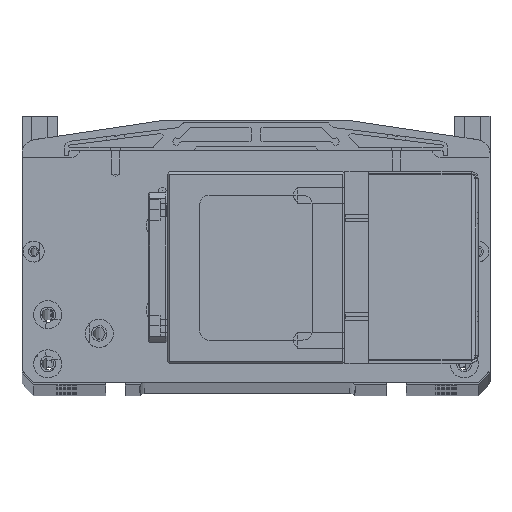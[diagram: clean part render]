
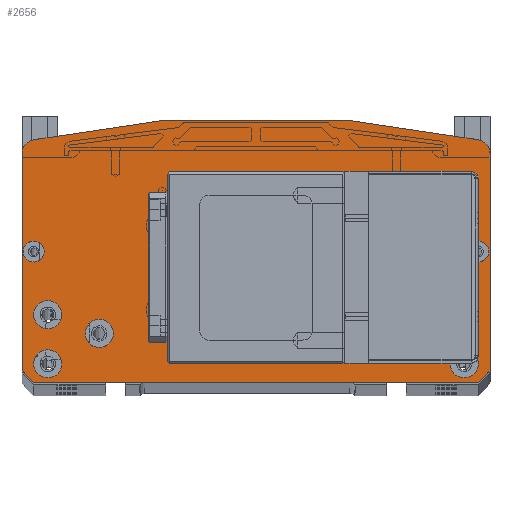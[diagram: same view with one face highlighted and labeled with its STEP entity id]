
A CAD part, top view. The second image highlights one B-rep face of the part: STEP entity #2656.
In plain terms, the highlighted planar face has unit normal (0, 0, 1).
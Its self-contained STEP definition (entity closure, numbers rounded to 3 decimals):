
#612=FACE_BOUND('',#5293,.T.);
#613=FACE_BOUND('',#5294,.T.);
#614=FACE_BOUND('',#5295,.T.);
#615=FACE_BOUND('',#5296,.T.);
#616=FACE_BOUND('',#5297,.T.);
#617=FACE_BOUND('',#5298,.T.);
#618=FACE_BOUND('',#5299,.T.);
#619=FACE_BOUND('',#5300,.T.);
#620=FACE_BOUND('',#5301,.T.);
#621=FACE_BOUND('',#5302,.T.);
#622=FACE_BOUND('',#5303,.T.);
#623=FACE_BOUND('',#5304,.T.);
#624=FACE_BOUND('',#5305,.T.);
#2656=ADVANCED_FACE('',(#612,#613,#614,#615,#616,#617,#618,#619,#620,#621,
#622,#623,#624),#3355,.F.);
#3355=PLANE('',#22084);
#5293=EDGE_LOOP('',(#10620,#10621,#10622,#10623));
#5294=EDGE_LOOP('',(#10624,#10625,#10626,#10627));
#5295=EDGE_LOOP('',(#10628));
#5296=EDGE_LOOP('',(#10629));
#5297=EDGE_LOOP('',(#10630,#10631,#10632,#10633,#10634,#10635,#10636,#10637,
#10638,#10639));
#5298=EDGE_LOOP('',(#10640));
#5299=EDGE_LOOP('',(#10641));
#5300=EDGE_LOOP('',(#10642));
#5301=EDGE_LOOP('',(#10643));
#5302=EDGE_LOOP('',(#10644));
#5303=EDGE_LOOP('',(#10645));
#5304=EDGE_LOOP('',(#10646));
#5305=EDGE_LOOP('',(#10647));
#6532=CIRCLE('',#21966,1.65);
#6547=CIRCLE('',#21995,1.65);
#6552=CIRCLE('',#22009,6.);
#6559=CIRCLE('',#22023,6.);
#6560=CIRCLE('',#22026,4.5);
#6564=CIRCLE('',#22033,4.5);
#6568=CIRCLE('',#22040,6.);
#6572=CIRCLE('',#22047,6.);
#6576=CIRCLE('',#22054,6.);
#6580=CIRCLE('',#22061,6.);
#6584=CIRCLE('',#22068,6.);
#6588=CIRCLE('',#22075,6.);
#10620=ORIENTED_EDGE('',*,*,#16907,.F.);
#10621=ORIENTED_EDGE('',*,*,#16908,.F.);
#10622=ORIENTED_EDGE('',*,*,#16909,.T.);
#10623=ORIENTED_EDGE('',*,*,#16910,.T.);
#10624=ORIENTED_EDGE('',*,*,#16750,.T.);
#10625=ORIENTED_EDGE('',*,*,#16753,.T.);
#10626=ORIENTED_EDGE('',*,*,#16773,.T.);
#10627=ORIENTED_EDGE('',*,*,#16746,.T.);
#10628=ORIENTED_EDGE('',*,*,#16808,.T.);
#10629=ORIENTED_EDGE('',*,*,#16836,.T.);
#10630=ORIENTED_EDGE('',*,*,#16841,.F.);
#10631=ORIENTED_EDGE('',*,*,#15683,.T.);
#10632=ORIENTED_EDGE('',*,*,#16873,.F.);
#10633=ORIENTED_EDGE('',*,*,#15707,.T.);
#10634=ORIENTED_EDGE('',*,*,#16872,.F.);
#10635=ORIENTED_EDGE('',*,*,#16843,.F.);
#10636=ORIENTED_EDGE('',*,*,#16849,.T.);
#10637=ORIENTED_EDGE('',*,*,#16852,.F.);
#10638=ORIENTED_EDGE('',*,*,#16853,.F.);
#10639=ORIENTED_EDGE('',*,*,#15370,.T.);
#10640=ORIENTED_EDGE('',*,*,#16903,.T.);
#10641=ORIENTED_EDGE('',*,*,#16899,.T.);
#10642=ORIENTED_EDGE('',*,*,#16895,.T.);
#10643=ORIENTED_EDGE('',*,*,#16891,.T.);
#10644=ORIENTED_EDGE('',*,*,#16887,.T.);
#10645=ORIENTED_EDGE('',*,*,#16883,.T.);
#10646=ORIENTED_EDGE('',*,*,#16879,.T.);
#10647=ORIENTED_EDGE('',*,*,#16875,.T.);
#13215=VERTEX_POINT('',#33016);
#13216=VERTEX_POINT('',#33018);
#13400=VERTEX_POINT('',#34262);
#13401=VERTEX_POINT('',#34264);
#13410=VERTEX_POINT('',#34307);
#13411=VERTEX_POINT('',#34309);
#14093=VERTEX_POINT('',#38299);
#14097=VERTEX_POINT('',#38308);
#14100=VERTEX_POINT('',#38316);
#14102=VERTEX_POINT('',#38322);
#14143=VERTEX_POINT('',#38456);
#14160=VERTEX_POINT('',#38515);
#14167=VERTEX_POINT('',#38535);
#14168=VERTEX_POINT('',#38536);
#14172=VERTEX_POINT('',#38546);
#14174=VERTEX_POINT('',#38552);
#14181=VERTEX_POINT('',#38593);
#14184=VERTEX_POINT('',#38603);
#14187=VERTEX_POINT('',#38613);
#14190=VERTEX_POINT('',#38623);
#14193=VERTEX_POINT('',#38633);
#14196=VERTEX_POINT('',#38643);
#14199=VERTEX_POINT('',#38653);
#14202=VERTEX_POINT('',#38663);
#14205=VERTEX_POINT('',#38675);
#14206=VERTEX_POINT('',#38676);
#14207=VERTEX_POINT('',#38678);
#14208=VERTEX_POINT('',#38680);
#15370=EDGE_CURVE('',#13216,#13215,#17842,.T.);
#15683=EDGE_CURVE('',#13401,#13400,#18035,.T.);
#15707=EDGE_CURVE('',#13411,#13410,#18055,.T.);
#16746=EDGE_CURVE('',#14093,#14097,#18660,.T.);
#16750=EDGE_CURVE('',#14097,#14100,#18664,.T.);
#16753=EDGE_CURVE('',#14100,#14102,#18667,.T.);
#16773=EDGE_CURVE('',#14102,#14093,#18687,.T.);
#16808=EDGE_CURVE('',#14143,#14143,#6532,.T.);
#16836=EDGE_CURVE('',#14160,#14160,#6547,.T.);
#16841=EDGE_CURVE('',#13401,#13215,#18707,.T.);
#16843=EDGE_CURVE('',#14167,#14168,#18709,.T.);
#16849=EDGE_CURVE('',#14167,#14172,#18715,.T.);
#16852=EDGE_CURVE('',#14174,#14172,#18718,.T.);
#16853=EDGE_CURVE('',#13216,#14174,#6552,.T.);
#16872=EDGE_CURVE('',#14168,#13410,#6559,.T.);
#16873=EDGE_CURVE('',#13411,#13400,#18731,.T.);
#16875=EDGE_CURVE('',#14181,#14181,#6560,.T.);
#16879=EDGE_CURVE('',#14184,#14184,#6564,.T.);
#16883=EDGE_CURVE('',#14187,#14187,#6568,.T.);
#16887=EDGE_CURVE('',#14190,#14190,#6572,.T.);
#16891=EDGE_CURVE('',#14193,#14193,#6576,.T.);
#16895=EDGE_CURVE('',#14196,#14196,#6580,.T.);
#16899=EDGE_CURVE('',#14199,#14199,#6584,.T.);
#16903=EDGE_CURVE('',#14202,#14202,#6588,.T.);
#16907=EDGE_CURVE('',#14205,#14206,#18733,.T.);
#16908=EDGE_CURVE('',#14207,#14205,#18734,.T.);
#16909=EDGE_CURVE('',#14207,#14208,#18735,.T.);
#16910=EDGE_CURVE('',#14208,#14206,#18736,.T.);
#17842=LINE('',#33017,#19388);
#18035=LINE('',#34263,#19581);
#18055=LINE('',#34308,#19601);
#18660=LINE('',#38309,#20206);
#18664=LINE('',#38317,#20210);
#18667=LINE('',#38323,#20213);
#18687=LINE('',#38359,#20233);
#18707=LINE('',#38531,#20253);
#18709=LINE('',#38534,#20255);
#18715=LINE('',#38547,#20261);
#18718=LINE('',#38553,#20264);
#18731=LINE('',#38589,#20277);
#18733=LINE('',#38674,#20279);
#18734=LINE('',#38677,#20280);
#18735=LINE('',#38679,#20281);
#18736=LINE('',#38681,#20282);
#19388=VECTOR('',#23809,1.);
#19581=VECTOR('',#24302,1.);
#19601=VECTOR('',#24352,1.);
#20206=VECTOR('',#26405,1.);
#20210=VECTOR('',#26411,1.);
#20213=VECTOR('',#26416,1.);
#20233=VECTOR('',#26448,1.);
#20253=VECTOR('',#26664,1.);
#20255=VECTOR('',#26668,1.);
#20261=VECTOR('',#26676,1.);
#20264=VECTOR('',#26681,1.);
#20277=VECTOR('',#26728,1.);
#20279=VECTOR('',#26848,1.);
#20280=VECTOR('',#26849,1.);
#20281=VECTOR('',#26850,1.);
#20282=VECTOR('',#26851,1.);
#21966=AXIS2_PLACEMENT_3D('',#38455,#26573,#26574);
#21995=AXIS2_PLACEMENT_3D('',#38514,#26644,#26645);
#22009=AXIS2_PLACEMENT_3D('',#38555,#26684,#26685);
#22023=AXIS2_PLACEMENT_3D('',#38587,#26724,#26725);
#22026=AXIS2_PLACEMENT_3D('',#38592,#26732,#26733);
#22033=AXIS2_PLACEMENT_3D('',#38602,#26746,#26747);
#22040=AXIS2_PLACEMENT_3D('',#38612,#26760,#26761);
#22047=AXIS2_PLACEMENT_3D('',#38622,#26774,#26775);
#22054=AXIS2_PLACEMENT_3D('',#38632,#26788,#26789);
#22061=AXIS2_PLACEMENT_3D('',#38642,#26802,#26803);
#22068=AXIS2_PLACEMENT_3D('',#38652,#26816,#26817);
#22075=AXIS2_PLACEMENT_3D('',#38662,#26830,#26831);
#22084=AXIS2_PLACEMENT_3D('',#38682,#26852,#26853);
#23809=DIRECTION('',(0.,-1.,0.));
#24302=DIRECTION('',(1.,0.,0.));
#24352=DIRECTION('',(0.,1.,0.));
#26405=DIRECTION('',(0.,1.,0.));
#26411=DIRECTION('',(1.,0.,0.));
#26416=DIRECTION('',(0.,-1.,0.));
#26448=DIRECTION('',(-1.,0.,0.));
#26573=DIRECTION('',(0.,0.,-1.));
#26574=DIRECTION('',(1.,0.,0.));
#26644=DIRECTION('',(0.,0.,-1.));
#26645=DIRECTION('',(1.,0.,0.));
#26664=DIRECTION('',(-0.707,0.707,0.));
#26668=DIRECTION('',(0.989,-0.148,0.));
#26676=DIRECTION('',(-1.,0.,0.));
#26681=DIRECTION('',(0.989,0.148,0.));
#26684=DIRECTION('',(0.,0.,-1.));
#26685=DIRECTION('',(-1.,0.,0.));
#26724=DIRECTION('',(0.,0.,-1.));
#26725=DIRECTION('',(0.148,0.989,0.));
#26728=DIRECTION('',(-0.707,-0.707,0.));
#26732=DIRECTION('',(0.,0.,-1.));
#26733=DIRECTION('',(1.,0.,0.));
#26746=DIRECTION('',(0.,0.,-1.));
#26747=DIRECTION('',(1.,0.,0.));
#26760=DIRECTION('',(0.,0.,-1.));
#26761=DIRECTION('',(1.,0.,0.));
#26774=DIRECTION('',(0.,0.,-1.));
#26775=DIRECTION('',(1.,0.,0.));
#26788=DIRECTION('',(0.,0.,-1.));
#26789=DIRECTION('',(1.,0.,0.));
#26802=DIRECTION('',(0.,0.,-1.));
#26803=DIRECTION('',(1.,0.,0.));
#26816=DIRECTION('',(0.,0.,-1.));
#26817=DIRECTION('',(1.,0.,0.));
#26830=DIRECTION('',(0.,0.,-1.));
#26831=DIRECTION('',(1.,0.,0.));
#26848=DIRECTION('',(1.,0.,0.));
#26849=DIRECTION('',(0.,-1.,0.));
#26850=DIRECTION('',(1.,0.,0.));
#26851=DIRECTION('',(0.,-1.,0.));
#26852=DIRECTION('',(0.,0.,-1.));
#26853=DIRECTION('',(-1.,0.,0.));
#33016=CARTESIAN_POINT('',(-100.,7.,463.));
#33017=CARTESIAN_POINT('',(-100.,99.833,463.));
#33018=CARTESIAN_POINT('',(-100.,99.833,463.));
#34262=CARTESIAN_POINT('',(95.,2.,463.));
#34263=CARTESIAN_POINT('',(67.5,2.,463.));
#34264=CARTESIAN_POINT('',(-95.,2.,463.));
#34307=CARTESIAN_POINT('',(100.,99.833,463.));
#34308=CARTESIAN_POINT('',(100.,7.,463.));
#34309=CARTESIAN_POINT('',(100.,7.,463.));
#38299=CARTESIAN_POINT('',(-37.,11.,463.));
#38308=CARTESIAN_POINT('',(-37.,91.,463.));
#38309=CARTESIAN_POINT('',(-37.,11.,463.));
#38316=CARTESIAN_POINT('',(37.,91.,463.));
#38317=CARTESIAN_POINT('',(-37.,91.,463.));
#38322=CARTESIAN_POINT('',(37.,11.,463.));
#38323=CARTESIAN_POINT('',(37.,91.,463.));
#38359=CARTESIAN_POINT('',(37.,11.,463.));
#38455=CARTESIAN_POINT('',(42.,69.,463.));
#38456=CARTESIAN_POINT('',(43.65,69.,463.));
#38514=CARTESIAN_POINT('',(42.,33.,463.));
#38515=CARTESIAN_POINT('',(43.65,33.,463.));
#38531=CARTESIAN_POINT('',(-95.,2.,463.));
#38534=CARTESIAN_POINT('',(40.,114.,463.));
#38535=CARTESIAN_POINT('',(40.,114.,463.));
#38536=CARTESIAN_POINT('',(94.89,105.766,463.));
#38546=CARTESIAN_POINT('',(-40.,114.,463.));
#38547=CARTESIAN_POINT('',(40.,114.,463.));
#38552=CARTESIAN_POINT('',(-94.89,105.766,463.));
#38553=CARTESIAN_POINT('',(-94.89,105.766,463.));
#38555=CARTESIAN_POINT('',(-94.,99.833,463.));
#38587=CARTESIAN_POINT('',(94.,99.833,463.));
#38589=CARTESIAN_POINT('',(100.,7.,463.));
#38592=CARTESIAN_POINT('',(-95.,58.,463.));
#38593=CARTESIAN_POINT('',(-90.5,58.,463.));
#38602=CARTESIAN_POINT('',(95.,58.,463.));
#38603=CARTESIAN_POINT('',(99.5,58.,463.));
#38612=CARTESIAN_POINT('',(-67.,23.,463.));
#38613=CARTESIAN_POINT('',(-61.,23.,463.));
#38622=CARTESIAN_POINT('',(67.,23.,463.));
#38623=CARTESIAN_POINT('',(73.,23.,463.));
#38632=CARTESIAN_POINT('',(-89.,31.,463.));
#38633=CARTESIAN_POINT('',(-83.,31.,463.));
#38642=CARTESIAN_POINT('',(89.,31.,463.));
#38643=CARTESIAN_POINT('',(95.,31.,463.));
#38652=CARTESIAN_POINT('',(-89.,10.,463.));
#38653=CARTESIAN_POINT('',(-83.,10.,463.));
#38662=CARTESIAN_POINT('',(89.,10.,463.));
#38663=CARTESIAN_POINT('',(95.,10.,463.));
#38674=CARTESIAN_POINT('',(-45.5,21.534,463.));
#38675=CARTESIAN_POINT('',(-45.5,21.534,463.));
#38676=CARTESIAN_POINT('',(-38.5,21.534,463.));
#38677=CARTESIAN_POINT('',(-45.5,80.466,463.));
#38678=CARTESIAN_POINT('',(-45.5,80.466,463.));
#38679=CARTESIAN_POINT('',(-45.5,80.466,463.));
#38680=CARTESIAN_POINT('',(-38.5,80.466,463.));
#38681=CARTESIAN_POINT('',(-38.5,80.466,463.));
#38682=CARTESIAN_POINT('',(0.,2.,463.));
